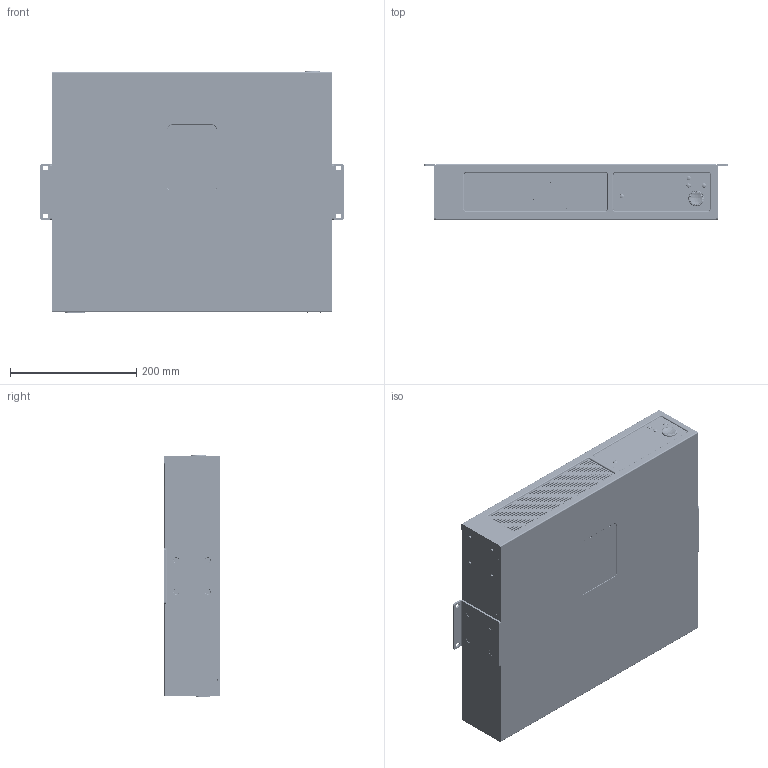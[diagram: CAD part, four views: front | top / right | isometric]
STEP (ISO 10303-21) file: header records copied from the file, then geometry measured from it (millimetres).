
FILE_DESCRIPTION (( 'STEP AP214' ), '1' );
FILE_NAME ('FG-901672-3D (UNDER SURFACE MOUNT) - A.STEP', '2026-03-10T17:25:37', ( '' ), ( '' ), 'SwSTEP 2.0', 'SolidWorks 2023', '' );
FILE_SCHEMA (( 'AUTOMOTIVE_DESIGN' ));
Length unit declared in the file: millimetre
Products named in the file (1): FG-901672-3D (UNDER SURFACE MOUNT) - A
Bounding box: 482.6 x 88 x 384.18 mm (x, y, z)
Volume: 14811761.1 mm3; surface area: 563204.7 mm2
Topology: 3 solids, 3 shells, 7337 faces, 17197 edges, 11211 vertices
Faces by surface type: plane 4815, cylinder 1724, bspline 344, torus 209, cone 183, sphere 62
Entity records: 263588 total; most frequent: CARTESIAN_POINT 43988, DIRECTION 35040, ORIENTED_EDGE 34394, EDGE_CURVE 17197, LINE 11930, VECTOR 11930, AXIS2_PLACEMENT_3D 11555, VERTEX_POINT 11211
